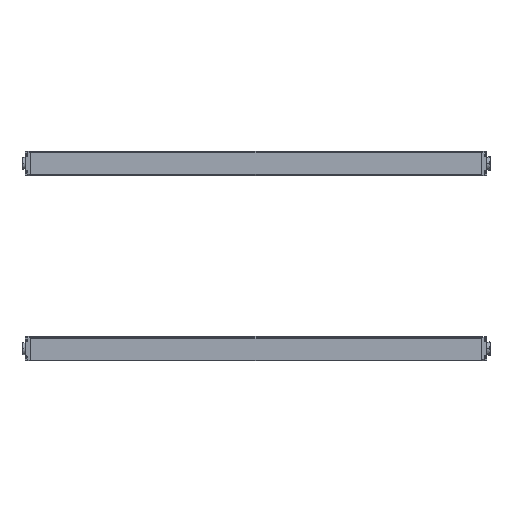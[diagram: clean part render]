
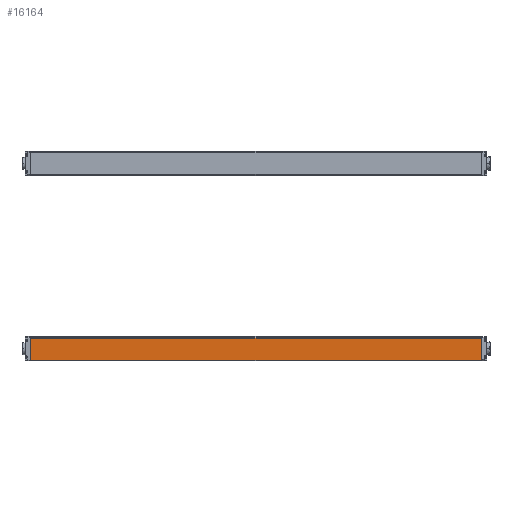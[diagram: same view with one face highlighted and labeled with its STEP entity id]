
A CAD part, left-side view. The second image highlights one B-rep face of the part: STEP entity #16164.
In plain terms, the highlighted planar face has unit normal (-1, 0, -0.009) as drawn and (1, 0, 0) by its records, which use the part's own axes.
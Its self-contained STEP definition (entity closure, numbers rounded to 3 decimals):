
#42 = CARTESIAN_POINT ( 'NONE',  ( 15., 560., -16.693 ) ) ;
#807 = PLANE ( 'NONE',  #9265 ) ;
#880 = EDGE_CURVE ( 'NONE', #2689, #11319, #10017, .T. ) ;
#1399 = DIRECTION ( 'NONE',  ( 0., 1., 0. ) ) ;
#1579 = ORIENTED_EDGE ( 'NONE', *, *, #880, .F. ) ;
#1737 = ORIENTED_EDGE ( 'NONE', *, *, #16938, .T. ) ;
#2689 = VERTEX_POINT ( 'NONE', #15927 ) ;
#3101 = DIRECTION ( 'NONE',  ( 0., 0., -1. ) ) ;
#3809 = VECTOR ( 'NONE', #3101, 1000. ) ;
#3824 = LINE ( 'NONE', #9365, #16545 ) ;
#5482 = EDGE_CURVE ( 'NONE', #14509, #11678, #6837, .T. ) ;
#6387 = CARTESIAN_POINT ( 'NONE',  ( 15., 560., -16.9 ) ) ;
#6837 = LINE ( 'NONE', #12360, #9094 ) ;
#7291 = ORIENTED_EDGE ( 'NONE', *, *, #5482, .T. ) ;
#7962 = EDGE_CURVE ( 'NONE', #11678, #11319, #8330, .T. ) ;
#8330 = LINE ( 'NONE', #13875, #16656 ) ;
#9094 = VECTOR ( 'NONE', #17922, 1000. ) ;
#9265 = AXIS2_PLACEMENT_3D ( 'NONE', #6387, #11915, #17460 ) ;
#9365 = CARTESIAN_POINT ( 'NONE',  ( 15., 560., 10.9 ) ) ;
#9707 = EDGE_LOOP ( 'NONE', ( #7291, #10627, #1579, #1737 ) ) ;
#10017 = LINE ( 'NONE', #15550, #3809 ) ;
#10627 = ORIENTED_EDGE ( 'NONE', *, *, #7962, .T. ) ;
#11319 = VERTEX_POINT ( 'NONE', #42 ) ;
#11678 = VERTEX_POINT ( 'NONE', #13678 ) ;
#11915 = DIRECTION ( 'NONE',  ( -1., 0., 0. ) ) ;
#12360 = CARTESIAN_POINT ( 'NONE',  ( 15., 0., -16.9 ) ) ;
#13275 = FACE_OUTER_BOUND ( 'NONE', #9707, .T. ) ;
#13678 = CARTESIAN_POINT ( 'NONE',  ( 15., 0., -16.693 ) ) ;
#13875 = CARTESIAN_POINT ( 'NONE',  ( 15., 560., -16.693 ) ) ;
#14509 = VERTEX_POINT ( 'NONE', #17664 ) ;
#14900 = DIRECTION ( 'NONE',  ( 0., -1., 0. ) ) ;
#15550 = CARTESIAN_POINT ( 'NONE',  ( 15., 560., -16.9 ) ) ;
#15927 = CARTESIAN_POINT ( 'NONE',  ( 15., 560., 10.9 ) ) ;
#16164 = ADVANCED_FACE ( 'NONE', ( #13275 ), #807, .F. ) ;
#16545 = VECTOR ( 'NONE', #14900, 1000. ) ;
#16656 = VECTOR ( 'NONE', #1399, 1000. ) ;
#16938 = EDGE_CURVE ( 'NONE', #2689, #14509, #3824, .T. ) ;
#17460 = DIRECTION ( 'NONE',  ( 0., 0., 1. ) ) ;
#17664 = CARTESIAN_POINT ( 'NONE',  ( 15., 0., 10.9 ) ) ;
#17922 = DIRECTION ( 'NONE',  ( 0., 0., -1. ) ) ;
